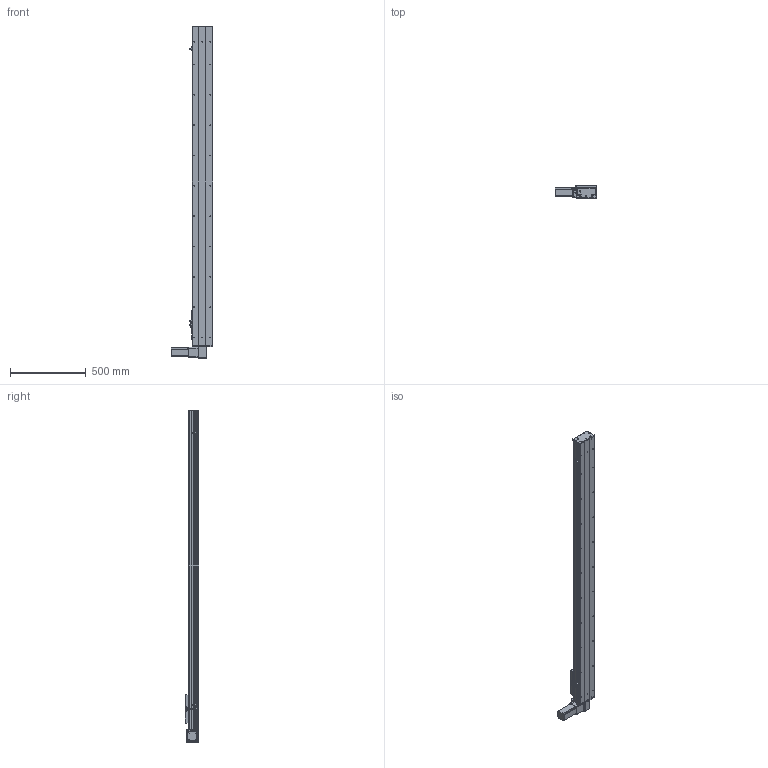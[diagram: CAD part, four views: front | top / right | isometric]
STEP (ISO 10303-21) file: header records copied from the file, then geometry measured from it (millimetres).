
FILE_DESCRIPTION (( 'STEP AP203' ), '1' );
FILE_NAME ('Y135CB-D90-S1800-BD-P400W.STEP', '2020-02-19T03:50:43', ( '微软用户' ), ( '微软中国' ), 'SwSTEP 2.0', 'SolidWorks 2017', '' );
FILE_SCHEMA (( 'CONFIG_CONTROL_DESIGN' ));
Length unit declared in the file: millimetre
Products named in the file (16): Y10B--々湍喘謫眊--666; san松下电机400不带刹车----; 0B-薊粣ん眊; 0B-源倛裔啣; 5CB --掛极耜裔啣-; Y135CB-D90-S1800-BD-P400W; C-詩湍揤踡え-陔; 135CB--詩湍-CE; Y135CB-耜裔; Y100-135俋离換覜ん--; 135CB---遴掛极.-; Y135C-陔俋离換覜結え-; 35CB---喘謫眊楊擘啣; 5C--俋欶; 0B-埴倛裔啣; C-雄赽釱--
Assembly tree (19 placements, depth 2):
  Y135CB-D90-S1800-BD-P400W
    Y135CB-耜裔
    135CB---遴掛极.-
    35CB---喘謫眊楊擘啣
    0B-埴倛裔啣
    0B-源倛裔啣
    san松下电机400不带刹车----
    5CB --掛极耜裔啣-  x2
    C-詩湍揤踡え-陔  x2
    135CB--詩湍-CE
    Y100-135俋离換覜ん--  x3
    Y135C-陔俋离換覜結え-
    5C--俋欶
    C-雄赽釱--
    Y10B--々湍喘謫眊--666
    0B-薊粣ん眊
Bounding box: 272 x 91 x 2188 mm (x, y, z)
Volume: 6464321.4 mm3; surface area: 2506515.2 mm2
Topology: 19 solids, 19 shells, 871 faces, 2338 edges, 1548 vertices
Faces by surface type: cylinder 440, plane 415, cone 16
Entity records: 26814 total; most frequent: DIRECTION 4470, CARTESIAN_POINT 4423, ORIENTED_EDGE 4152, EDGE_CURVE 2076, AXIS2_PLACEMENT_3D 1643, VERTEX_POINT 1376, LINE 1184, VECTOR 1184
